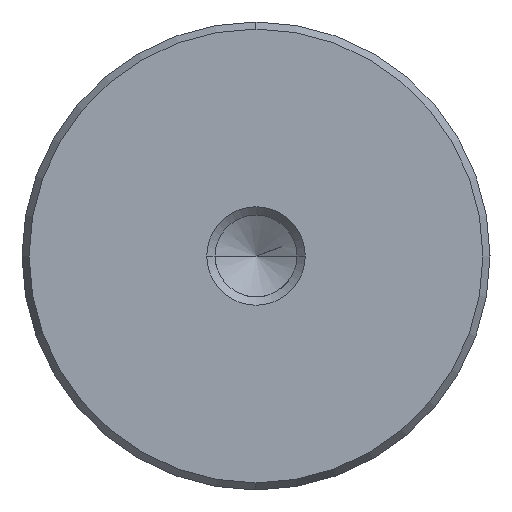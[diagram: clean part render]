
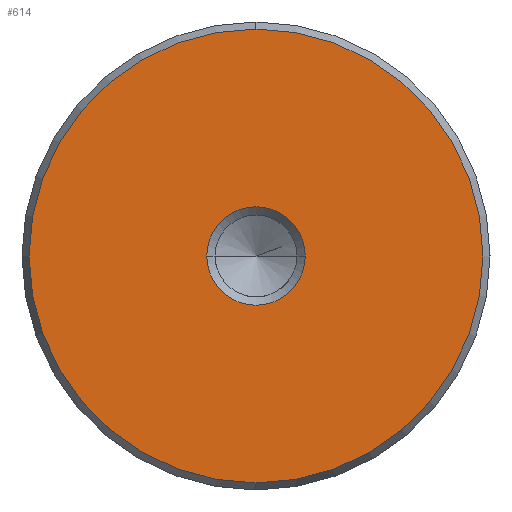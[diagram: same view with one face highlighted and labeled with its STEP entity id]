
A CAD part, left-side view. The second image highlights one B-rep face of the part: STEP entity #614.
In plain terms, the highlighted planar face has unit normal (-1, 0, 0).
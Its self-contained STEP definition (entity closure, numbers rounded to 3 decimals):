
#528=CARTESIAN_POINT('Vertex',(0.,0.,-18.423)) ;
#531=CARTESIAN_POINT('Axis2P3D Location',(0.,0.,0.)) ;
#535=CARTESIAN_POINT('Vertex',(0.,18.423,0.)) ;
#538=CARTESIAN_POINT('Axis2P3D Location',(0.,0.,0.)) ;
#542=CARTESIAN_POINT('Vertex',(0.,0.,18.423)) ;
#564=CARTESIAN_POINT('Axis2P3D Location',(0.,0.,0.)) ;
#568=CARTESIAN_POINT('Vertex',(0.,-18.423,0.)) ;
#571=CARTESIAN_POINT('Axis2P3D Location',(0.,0.,0.)) ;
#585=CARTESIAN_POINT('Axis2P3D Location',(0.,0.,0.)) ;
#596=CARTESIAN_POINT('Axis2P3D Location',(0.,0.,0.)) ;
#600=CARTESIAN_POINT('Vertex',(0.,4.,0.)) ;
#602=CARTESIAN_POINT('Vertex',(0.,-4.,0.)) ;
#605=CARTESIAN_POINT('Axis2P3D Location',(0.,0.,0.)) ;
#532=DIRECTION('Axis2P3D Direction',(1.,0.,-0.)) ;
#539=DIRECTION('Axis2P3D Direction',(1.,0.,-0.)) ;
#565=DIRECTION('Axis2P3D Direction',(1.,0.,-0.)) ;
#572=DIRECTION('Axis2P3D Direction',(1.,0.,-0.)) ;
#586=DIRECTION('Axis2P3D Direction',(1.,0.,-0.)) ;
#587=DIRECTION('Axis2P3D XDirection',(-0.,0.,-1.)) ;
#597=DIRECTION('Axis2P3D Direction',(1.,0.,-0.)) ;
#606=DIRECTION('Axis2P3D Direction',(1.,0.,-0.)) ;
#533=AXIS2_PLACEMENT_3D('Circle Axis2P3D',#531,#532,$) ;
#540=AXIS2_PLACEMENT_3D('Circle Axis2P3D',#538,#539,$) ;
#566=AXIS2_PLACEMENT_3D('Circle Axis2P3D',#564,#565,$) ;
#573=AXIS2_PLACEMENT_3D('Circle Axis2P3D',#571,#572,$) ;
#588=AXIS2_PLACEMENT_3D('Plane Axis2P3D',#585,#586,#587) ;
#598=AXIS2_PLACEMENT_3D('Circle Axis2P3D',#596,#597,$) ;
#607=AXIS2_PLACEMENT_3D('Circle Axis2P3D',#605,#606,$) ;
#591=ORIENTED_EDGE('',*,*,#537,.F.) ;
#592=ORIENTED_EDGE('',*,*,#575,.F.) ;
#593=ORIENTED_EDGE('',*,*,#570,.F.) ;
#594=ORIENTED_EDGE('',*,*,#544,.F.) ;
#611=ORIENTED_EDGE('',*,*,#604,.T.) ;
#612=ORIENTED_EDGE('',*,*,#609,.T.) ;
#613=FACE_BOUND('',#610,.T.) ;
#614=ADVANCED_FACE('_CIAF38224',(#595,#613),#589,.F.) ;
#534=CIRCLE('generated circle',#533,18.423) ;
#541=CIRCLE('generated circle',#540,18.423) ;
#567=CIRCLE('generated circle',#566,18.423) ;
#574=CIRCLE('generated circle',#573,18.423) ;
#599=CIRCLE('generated circle',#598,4.) ;
#608=CIRCLE('generated circle',#607,4.) ;
#537=EDGE_CURVE('',#529,#536,#534,.T.) ;
#544=EDGE_CURVE('',#536,#543,#541,.T.) ;
#570=EDGE_CURVE('',#543,#569,#567,.T.) ;
#575=EDGE_CURVE('',#569,#529,#574,.T.) ;
#604=EDGE_CURVE('',#601,#603,#599,.T.) ;
#609=EDGE_CURVE('',#603,#601,#608,.T.) ;
#590=EDGE_LOOP('',(#591,#592,#593,#594)) ;
#610=EDGE_LOOP('',(#611,#612)) ;
#595=FACE_OUTER_BOUND('',#590,.T.) ;
#589=PLANE('Plane',#588) ;
#529=VERTEX_POINT('',#528) ;
#536=VERTEX_POINT('',#535) ;
#543=VERTEX_POINT('',#542) ;
#569=VERTEX_POINT('',#568) ;
#601=VERTEX_POINT('',#600) ;
#603=VERTEX_POINT('',#602) ;
